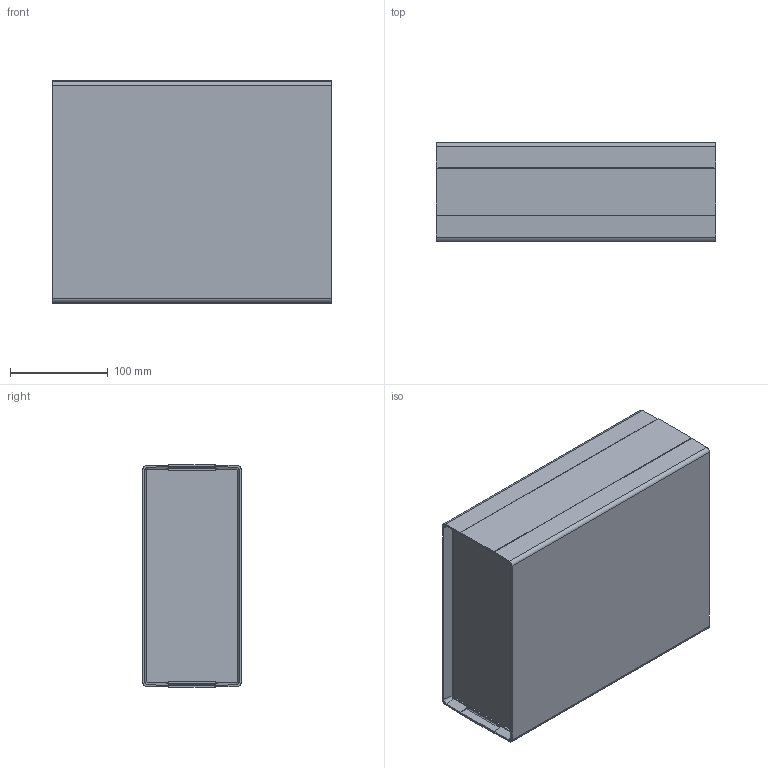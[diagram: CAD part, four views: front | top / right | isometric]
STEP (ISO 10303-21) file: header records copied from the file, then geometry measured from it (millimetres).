
FILE_DESCRIPTION (( 'STEP AP203' ), '1' );
FILE_NAME ('PT270.STEP', '2020-02-19T11:22:28', ( '' ), ( '' ), 'SwSTEP 2.0', 'SolidWorks 2020', '' );
FILE_SCHEMA (( 'CONFIG_CONTROL_DESIGN' ));
Length unit declared in the file: millimetre
Products named in the file (4): PT270
Assembly tree (6 placements, depth 2):
  PT270
    PT270  x2
    PT270  x2
    PT270  x2
Bounding box: 285.6 x 100.48 x 227.6 mm (x, y, z)
Volume: 796555.3 mm3; surface area: 503882.5 mm2
Topology: 6 solids, 6 shells, 1200 faces, 3026 edges, 2002 vertices
Faces by surface type: plane 930, cylinder 204, cone 40, bspline 26
Entity records: 19243 total; most frequent: CARTESIAN_POINT 4104, ORIENTED_EDGE 3026, DIRECTION 2941, EDGE_CURVE 1513, VECTOR 1217, LINE 1217, VERTEX_POINT 1001, AXIS2_PLACEMENT_3D 862
